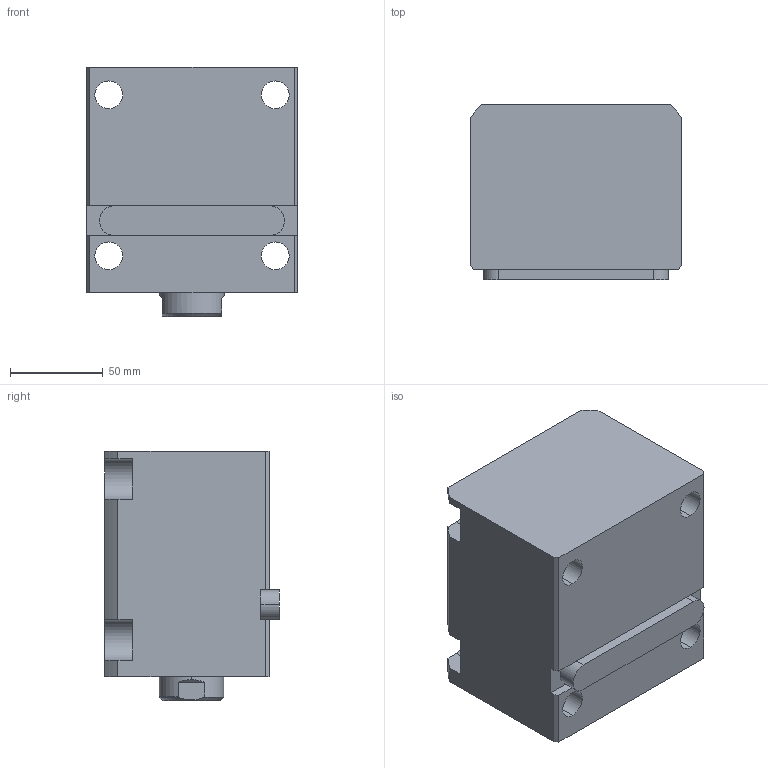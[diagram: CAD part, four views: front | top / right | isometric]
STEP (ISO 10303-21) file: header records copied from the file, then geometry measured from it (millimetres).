
FILE_DESCRIPTION (( 'STEP AP214' ), '1' );
FILE_NAME ('chtb-la63x55n_asm.STEP', '2018-05-02T04:15:21', ( 'Windows' ), ( 'Microsoft' ), 'SwSTEP 2.0', 'SolidWorks 2015', '' );
FILE_SCHEMA (( 'AUTOMOTIVE_DESIGN' ));
Length unit declared in the file: millimetre
Products named in the file (5): CHTB-LA63X55NBT; CHTB-LA63PJ; CHTB63X55NHSG; CHTB-63QG; chtb-la63x55n_asm
Assembly tree (4 placements, depth 2):
  chtb-la63x55n_asm
    CHTB-63QG
    CHTB63X55NHSG
    CHTB-LA63PJ
    CHTB-LA63X55NBT
Bounding box: 114 x 94.5 x 135 mm (x, y, z)
Volume: 1041547.8 mm3; surface area: 155704.2 mm2
Topology: 4 solids, 4 shells, 174 faces, 510 edges, 348 vertices
Faces by surface type: cylinder 98, plane 45, bspline 12, cone 12, torus 7
Entity records: 18199 total; most frequent: CARTESIAN_POINT 13678, ORIENTED_EDGE 1008, DIRECTION 778, EDGE_CURVE 504, VERTEX_POINT 348, AXIS2_PLACEMENT_3D 295, EDGE_LOOP 198, LINE 188
